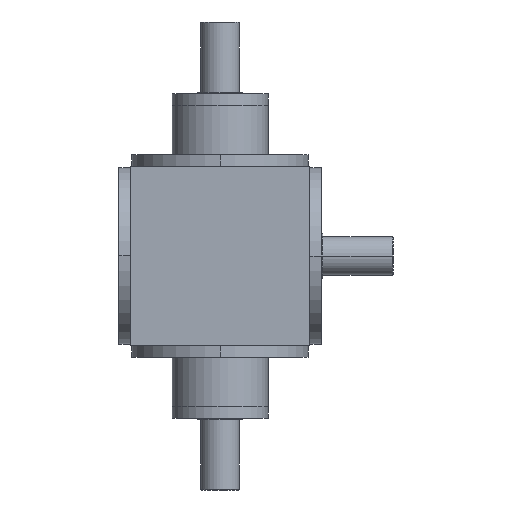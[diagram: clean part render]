
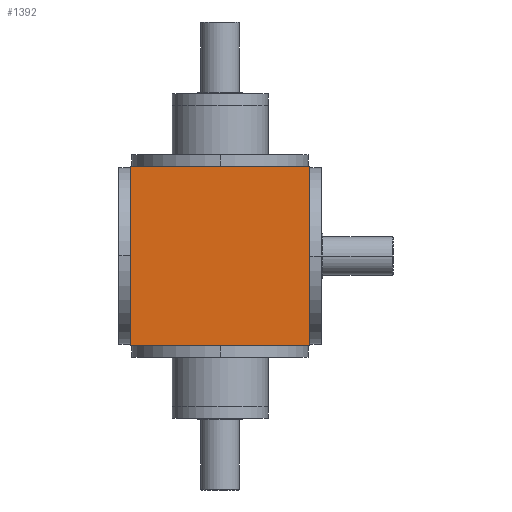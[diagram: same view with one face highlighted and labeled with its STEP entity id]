
A CAD part, front view. The second image highlights one B-rep face of the part: STEP entity #1392.
In plain terms, the highlighted planar face has unit normal (0, -1, 0).
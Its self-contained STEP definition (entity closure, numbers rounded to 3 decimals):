
#1392 = ADVANCED_FACE ( 'NONE', ( #9938 ), #13155, .F. ) ;
#1620 = DIRECTION ( 'NONE',  ( 0., 1., 0. ) ) ;
#2091 = ORIENTED_EDGE ( 'NONE', *, *, #17464, .T. ) ;
#2224 = AXIS2_PLACEMENT_3D ( 'NONE', #7195, #1620, #15179 ) ;
#2355 = EDGE_LOOP ( 'NONE', ( #9782, #12355, #14317, #2091 ) ) ;
#4725 = CARTESIAN_POINT ( 'NONE',  ( 139.9, -140., 140. ) ) ;
#5401 = CARTESIAN_POINT ( 'NONE',  ( 139.9, -140., 139.9 ) ) ;
#6880 = CARTESIAN_POINT ( 'NONE',  ( -139.9, -140., -139.9 ) ) ;
#6974 = LINE ( 'NONE', #17184, #16579 ) ;
#7195 = CARTESIAN_POINT ( 'NONE',  ( 140., -140., 140. ) ) ;
#7652 = EDGE_CURVE ( 'NONE', #18021, #16612, #23325, .T. ) ;
#8480 = VECTOR ( 'NONE', #18265, 1000. ) ;
#8980 = CARTESIAN_POINT ( 'NONE',  ( -139.9, -140., 139.9 ) ) ;
#9667 = DIRECTION ( 'NONE',  ( 1., 0., 0. ) ) ;
#9782 = ORIENTED_EDGE ( 'NONE', *, *, #11862, .T. ) ;
#9938 = FACE_OUTER_BOUND ( 'NONE', #2355, .T. ) ;
#10589 = VECTOR ( 'NONE', #24326, 1000. ) ;
#11862 = EDGE_CURVE ( 'NONE', #15122, #13134, #6974, .T. ) ;
#12355 = ORIENTED_EDGE ( 'NONE', *, *, #17358, .T. ) ;
#13134 = VERTEX_POINT ( 'NONE', #18998 ) ;
#13155 = PLANE ( 'NONE',  #2224 ) ;
#14317 = ORIENTED_EDGE ( 'NONE', *, *, #7652, .T. ) ;
#14427 = CARTESIAN_POINT ( 'NONE',  ( -140., -140., 139.9 ) ) ;
#14670 = CARTESIAN_POINT ( 'NONE',  ( -139.9, -140., 140. ) ) ;
#15122 = VERTEX_POINT ( 'NONE', #6880 ) ;
#15179 = DIRECTION ( 'NONE',  ( 0., 0., 1. ) ) ;
#16579 = VECTOR ( 'NONE', #9667, 1000. ) ;
#16612 = VERTEX_POINT ( 'NONE', #8980 ) ;
#17184 = CARTESIAN_POINT ( 'NONE',  ( 140., -140., -139.9 ) ) ;
#17358 = EDGE_CURVE ( 'NONE', #13134, #18021, #22502, .T. ) ;
#17454 = LINE ( 'NONE', #14670, #10589 ) ;
#17464 = EDGE_CURVE ( 'NONE', #16612, #15122, #17454, .T. ) ;
#18021 = VERTEX_POINT ( 'NONE', #5401 ) ;
#18265 = DIRECTION ( 'NONE',  ( 0., 0., 1. ) ) ;
#18288 = VECTOR ( 'NONE', #20227, 1000. ) ;
#18998 = CARTESIAN_POINT ( 'NONE',  ( 139.9, -140., -139.9 ) ) ;
#20227 = DIRECTION ( 'NONE',  ( -1., 0., 0. ) ) ;
#22502 = LINE ( 'NONE', #4725, #8480 ) ;
#23325 = LINE ( 'NONE', #14427, #18288 ) ;
#24326 = DIRECTION ( 'NONE',  ( 0., 0., -1. ) ) ;
